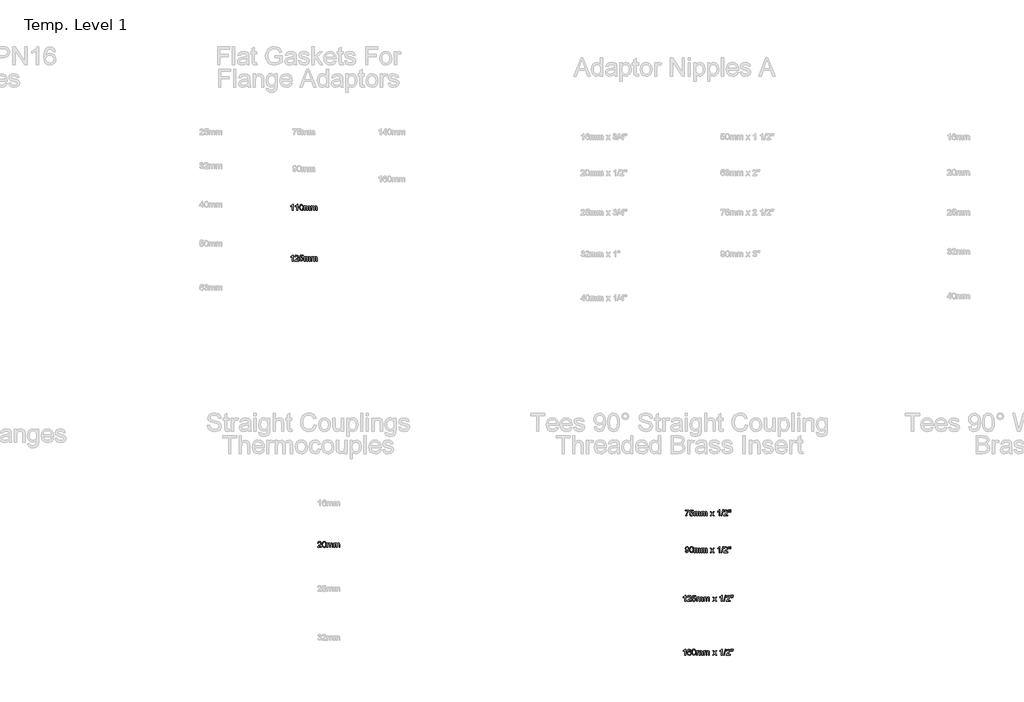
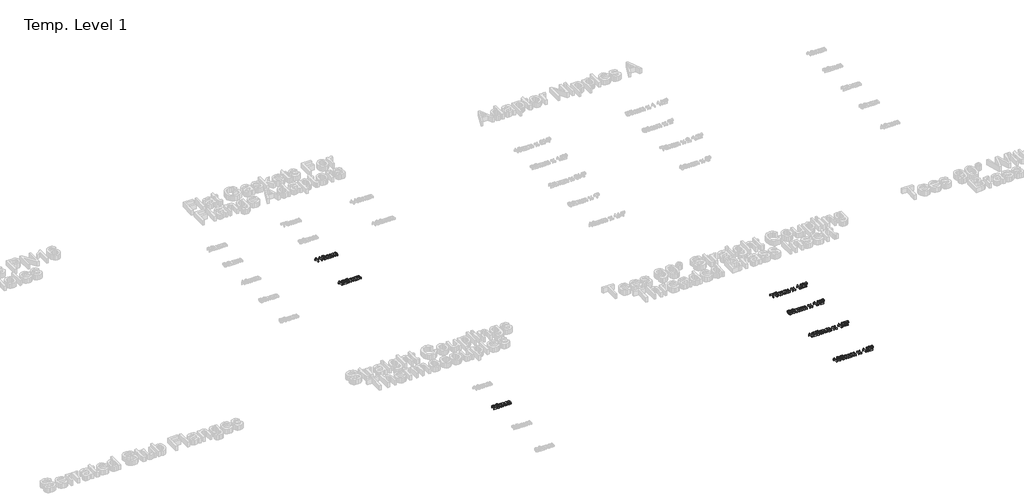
# One storey, part 4 of 62: 7 proxies.
"""IFC4 building model written with IfcOpenShell, lengths in millimetres."""

from ifc_helpers import new_model, si_unit, origin, origin_with_axes, place, context, project, spatial, polyline, outline, extrude, element, save

model = new_model("IFC4")

# Units and contexts
model_context = context("Model", 3, world=origin())
ifc_project = project(units=[si_unit("LENGTHUNIT", "METRE", prefix="MILLI")], contexts=[model_context])

# Site, building, storey
site = spatial("IfcSite", under=ifc_project)
building = spatial("IfcBuilding", under=site)
storey = spatial("IfcBuildingStorey", under=building, Name="Temp. Level 1", Elevation=0.0)

# Proxies
placement = place(None, origin())
element("IfcBuildingElementProxy", 1, Name="50mm Arial", ObjectType="50mm Arial", at=placement, inside=storey, context=model_context, shape_type="SweptSolid", body=[
    extrude(outline(polyline([(12294.5553631, -8170.198517), (12288.401517, -8170.198517), (12288.401517, -8131.8331324), (12282.5721901, -8135.9857766), (12276.0938247, -8139.0927478), (12276.0938247, -8133.2754401), (12285.1142574, -8127.5182286), (12290.589017, -8120.9677478), (12294.5553631, -8120.9677478), (12294.5553631, -8170.198517)])), origin_with_axes(), (0.0, 0.0, 1.0), 15.0),
    extrude(outline(polyline([(12332.2476708, -8170.198517), (12326.0938247, -8170.198517), (12326.0938247, -8131.8331324), (12320.2644977, -8135.9857766), (12313.7861324, -8139.0927478), (12313.7861324, -8133.2754401), (12322.8065651, -8127.5182286), (12328.2813247, -8120.9677478), (12332.2476708, -8120.9677478), (12332.2476708, -8170.198517)])), origin_with_axes(), (0.0, 0.0, 1.0), 15.0),
    extrude(outline(polyline([(12346.8630554, -8145.979767), (12348.6719497, -8131.8151036), (12354.0445458, -8123.6480362), (12363.0169016, -8120.9677478), (12370.2044016, -8122.5542862), (12375.1683439, -8127.1276036), (12378.0529593, -8134.4112574), (12379.1707477, -8145.979767), (12377.3798824, -8160.0843343), (12372.0253151, -8168.2694305), (12363.0169016, -8170.9677478), (12351.7669016, -8166.2802478), (12348.089017, -8157.9539257), (12346.8630554, -8145.979767)]), holes=[polyline([(12353.0169016, -8145.9677478), (12355.901517, -8161.2501997), (12363.0169016, -8164.8139016), (12370.1322862, -8161.2381805), (12373.0169016, -8145.9677478), (12370.2284401, -8130.8595747), (12362.9447862, -8127.1215939), (12355.9976708, -8130.4148632), (12353.0169016, -8145.9677478)])]), origin_with_axes(), (0.0, 0.0, 1.0), 15.0),
    extrude(outline(polyline([(12386.0938247, -8170.198517), (12386.0938247, -8134.0446709), (12392.2476708, -8134.0446709), (12392.2476708, -8139.9941901), (12396.4784401, -8135.120392), (12402.5000747, -8133.2754401), (12408.6659401, -8135.1564497), (12412.0553631, -8140.4268824), (12416.8570458, -8135.0633007), (12422.9207477, -8133.2754401), (12430.9676227, -8136.2501997), (12433.7861324, -8145.4148632), (12433.7861324, -8170.198517), (12427.6322862, -8170.198517), (12427.6322862, -8148.0590939), (12427.0613727, -8142.9208728), (12424.9940651, -8140.3908247), (12421.4784401, -8139.4292862), (12415.4267574, -8141.8932286), (12413.0169016, -8149.7898632), (12413.0169016, -8170.198517), (12406.8630554, -8170.198517), (12406.8630554, -8147.3739978), (12405.4387766, -8141.4124593), (12400.7693054, -8139.4292862), (12396.214017, -8140.7514016), (12393.1851708, -8144.6215939), (12392.2476708, -8151.9653439), (12392.2476708, -8170.198517), (12386.0938247, -8170.198517)])), origin_with_axes(), (0.0, 0.0, 1.0), 15.0),
    extrude(outline(polyline([(12443.0169016, -8170.198517), (12443.0169016, -8134.0446709), (12449.1707477, -8134.0446709), (12449.1707477, -8139.9941901), (12453.401517, -8135.120392), (12459.4231516, -8133.2754401), (12465.589017, -8135.1564497), (12468.9784401, -8140.4268824), (12473.7801227, -8135.0633007), (12479.8438247, -8133.2754401), (12487.8906997, -8136.2501997), (12490.7092093, -8145.4148632), (12490.7092093, -8170.198517), (12484.5553631, -8170.198517), (12484.5553631, -8148.0590939), (12483.9844497, -8142.9208728), (12481.917142, -8140.3908247), (12478.401517, -8139.4292862), (12472.3498343, -8141.8932286), (12469.9399785, -8149.7898632), (12469.9399785, -8170.198517), (12463.7861324, -8170.198517), (12463.7861324, -8147.3739978), (12462.3618535, -8141.4124593), (12457.6923824, -8139.4292862), (12453.1370939, -8140.7514016), (12450.1082477, -8144.6215939), (12449.1707477, -8151.9653439), (12449.1707477, -8170.198517), (12443.0169016, -8170.198517)])), origin_with_axes(), (0.0, 0.0, 1.0), 15.0),
])
element("IfcBuildingElementProxy", 2, Name="50mm Arial", ObjectType="50mm Arial", at=placement, inside=storey, context=model_context, shape_type="SweptSolid", body=[
    extrude(outline(polyline([(12294.5553631, -8585.198517), (12288.401517, -8585.198517), (12288.401517, -8546.8331324), (12282.5721901, -8550.9857766), (12276.0938247, -8554.0927478), (12276.0938247, -8548.2754401), (12285.1142574, -8542.5182286), (12290.589017, -8535.9677478), (12294.5553631, -8535.9677478), (12294.5553631, -8585.198517)])), origin_with_axes(), (0.0, 0.0, 1.0), 15.0),
    extrude(outline(polyline([(12340.7092093, -8579.0446709), (12340.7092093, -8585.198517), (12308.401517, -8585.198517), (12309.0625747, -8580.9557286), (12312.8005554, -8574.4232766), (12320.5048824, -8567.2898632), (12331.1298824, -8557.0374593), (12333.7861324, -8550.0663055), (12331.2801227, -8544.4232766), (12324.7356516, -8542.1215939), (12317.9147381, -8544.3691901), (12315.3245939, -8550.5831324), (12309.1707477, -8549.8139016), (12313.8882958, -8539.5134209), (12324.8678631, -8535.9677478), (12335.8834881, -8539.9100555), (12339.9399785, -8549.6937093), (12338.8462285, -8555.5290459), (12335.2104112, -8561.5626997), (12326.3943054, -8569.9941901), (12319.3149785, -8575.9136612), (12316.5385362, -8579.0446709), (12340.7092093, -8579.0446709)])), origin_with_axes(), (0.0, 0.0, 1.0), 15.0),
    extrude(outline(polyline([(12346.8630554, -8572.1215939), (12353.0169016, -8571.3523632), (12356.1178631, -8577.6925074), (12362.5481516, -8579.8139016), (12370.2644977, -8576.8631805), (12373.0169016, -8569.0326516), (12370.4387766, -8561.7249593), (12362.6443054, -8559.0446709), (12357.2416612, -8560.1143824), (12353.7861324, -8562.8908247), (12347.6322862, -8562.1215939), (12353.0169016, -8536.7369786), (12376.8630554, -8536.7369786), (12376.8630554, -8542.8908247), (12357.9928631, -8542.8908247), (12355.3606516, -8556.448517), (12364.3630554, -8552.8908247), (12374.885892, -8557.3018824), (12379.1707477, -8568.6480362), (12375.3125747, -8580.0663055), (12369.7717093, -8584.4923872), (12362.5241131, -8585.9677478), (12351.6647381, -8582.1756805), (12346.8630554, -8572.1215939)])), origin_with_axes(), (0.0, 0.0, 1.0), 15.0),
    extrude(outline(polyline([(12386.0938247, -8585.198517), (12386.0938247, -8549.0446709), (12392.2476708, -8549.0446709), (12392.2476708, -8554.9941901), (12396.4784401, -8550.120392), (12402.5000747, -8548.2754401), (12408.6659401, -8550.1564497), (12412.0553631, -8555.4268824), (12416.8570458, -8550.0633007), (12422.9207477, -8548.2754401), (12430.9676227, -8551.2501997), (12433.7861324, -8560.4148632), (12433.7861324, -8585.198517), (12427.6322862, -8585.198517), (12427.6322862, -8563.0590939), (12427.0613727, -8557.9208728), (12424.9940651, -8555.3908247), (12421.4784401, -8554.4292862), (12415.4267574, -8556.8932286), (12413.0169016, -8564.7898632), (12413.0169016, -8585.198517), (12406.8630554, -8585.198517), (12406.8630554, -8562.3739978), (12405.4387766, -8556.4124593), (12400.7693054, -8554.4292862), (12396.214017, -8555.7514016), (12393.1851708, -8559.6215939), (12392.2476708, -8566.9653439), (12392.2476708, -8585.198517), (12386.0938247, -8585.198517)])), origin_with_axes(), (0.0, 0.0, 1.0), 15.0),
    extrude(outline(polyline([(12443.0169016, -8585.198517), (12443.0169016, -8549.0446709), (12449.1707477, -8549.0446709), (12449.1707477, -8554.9941901), (12453.401517, -8550.120392), (12459.4231516, -8548.2754401), (12465.589017, -8550.1564497), (12468.9784401, -8555.4268824), (12473.7801227, -8550.0633007), (12479.8438247, -8548.2754401), (12487.8906997, -8551.2501997), (12490.7092093, -8560.4148632), (12490.7092093, -8585.198517), (12484.5553631, -8585.198517), (12484.5553631, -8563.0590939), (12483.9844497, -8557.9208728), (12481.917142, -8555.3908247), (12478.401517, -8554.4292862), (12472.3498343, -8556.8932286), (12469.9399785, -8564.7898632), (12469.9399785, -8585.198517), (12463.7861324, -8585.198517), (12463.7861324, -8562.3739978), (12462.3618535, -8556.4124593), (12457.6923824, -8554.4292862), (12453.1370939, -8555.7514016), (12450.1082477, -8559.6215939), (12449.1707477, -8566.9653439), (12449.1707477, -8585.198517), (12443.0169016, -8585.198517)])), origin_with_axes(), (0.0, 0.0, 1.0), 15.0),
])
element("IfcBuildingElementProxy", 3, Name="50mm Arial", ObjectType="50mm Arial", at=placement, inside=storey, context=model_context, shape_type="SweptSolid", body=[
    extrude(outline(polyline([(12526.8630554, -10924.0446709), (12526.8630554, -10930.198517), (12494.5553631, -10930.198517), (12495.2164208, -10925.9557286), (12498.9544016, -10919.4232766), (12506.6587285, -10912.2898632), (12517.2837285, -10902.0374593), (12519.9399785, -10895.0663055), (12517.4339689, -10889.4232766), (12510.8894977, -10887.1215939), (12504.0685843, -10889.3691901), (12501.4784401, -10895.5831324), (12495.3245939, -10894.8139016), (12500.042142, -10884.5134209), (12511.0217093, -10880.9677478), (12522.0373343, -10884.9100555), (12526.0938247, -10894.6937093), (12525.0000747, -10900.5290459), (12521.3642574, -10906.5626997), (12512.5481516, -10914.9941901), (12505.4688247, -10920.9136612), (12502.6923824, -10924.0446709), (12526.8630554, -10924.0446709)])), origin_with_axes(), (0.0, 0.0, 1.0), 15.0),
    extrude(outline(polyline([(12533.0169016, -10905.979767), (12534.8257958, -10891.8151036), (12540.198392, -10883.6480362), (12549.1707477, -10880.9677478), (12556.3582477, -10882.5542862), (12561.3221901, -10887.1276036), (12564.2068054, -10894.4112574), (12565.3245939, -10905.979767), (12563.5337285, -10920.0843343), (12558.1791612, -10928.2694305), (12549.1707477, -10930.9677478), (12537.9207477, -10926.2802478), (12534.2428631, -10917.9539257), (12533.0169016, -10905.979767)]), holes=[polyline([(12539.1707477, -10905.9677478), (12542.0553631, -10921.2501997), (12549.1707477, -10924.8139016), (12556.2861324, -10921.2381805), (12559.1707477, -10905.9677478), (12556.3822862, -10890.8595747), (12549.0986324, -10887.1215939), (12542.151517, -10890.4148632), (12539.1707477, -10905.9677478)])]), origin_with_axes(), (0.0, 0.0, 1.0), 15.0),
    extrude(outline(polyline([(12572.2476708, -10930.198517), (12572.2476708, -10894.0446709), (12578.401517, -10894.0446709), (12578.401517, -10899.9941901), (12582.6322862, -10895.120392), (12588.6539208, -10893.2754401), (12594.8197862, -10895.1564497), (12598.2092093, -10900.4268824), (12603.010892, -10895.0633007), (12609.0745939, -10893.2754401), (12617.1214689, -10896.2501997), (12619.9399785, -10905.4148632), (12619.9399785, -10930.198517), (12613.7861324, -10930.198517), (12613.7861324, -10908.0590939), (12613.2152189, -10902.9208728), (12611.1479112, -10900.3908247), (12607.6322862, -10899.4292862), (12601.5806035, -10901.8932286), (12599.1707477, -10909.7898632), (12599.1707477, -10930.198517), (12593.0169016, -10930.198517), (12593.0169016, -10907.3739978), (12591.5926227, -10901.4124593), (12586.9231516, -10899.4292862), (12582.3678631, -10900.7514016), (12579.339017, -10904.6215939), (12578.401517, -10911.9653439), (12578.401517, -10930.198517), (12572.2476708, -10930.198517)])), origin_with_axes(), (0.0, 0.0, 1.0), 15.0),
    extrude(outline(polyline([(12629.1707477, -10930.198517), (12629.1707477, -10894.0446709), (12635.3245939, -10894.0446709), (12635.3245939, -10899.9941901), (12639.5553631, -10895.120392), (12645.5769977, -10893.2754401), (12651.7428631, -10895.1564497), (12655.1322862, -10900.4268824), (12659.9339689, -10895.0633007), (12665.9976708, -10893.2754401), (12674.0445458, -10896.2501997), (12676.8630554, -10905.4148632), (12676.8630554, -10930.198517), (12670.7092093, -10930.198517), (12670.7092093, -10908.0590939), (12670.1382958, -10902.9208728), (12668.0709881, -10900.3908247), (12664.5553631, -10899.4292862), (12658.5036804, -10901.8932286), (12656.0938247, -10909.7898632), (12656.0938247, -10930.198517), (12649.9399785, -10930.198517), (12649.9399785, -10907.3739978), (12648.5156997, -10901.4124593), (12643.8462285, -10899.4292862), (12639.2909401, -10900.7514016), (12636.2620939, -10904.6215939), (12635.3245939, -10911.9653439), (12635.3245939, -10930.198517), (12629.1707477, -10930.198517)])), origin_with_axes(), (0.0, 0.0, 1.0), 15.0),
])
element("IfcBuildingElementProxy", 4, Name="50mm Arial", ObjectType="50mm Arial", at=placement, inside=storey, context=model_context, shape_type="SweptSolid", body=[
    extrude(outline(polyline([(15503.4692601, -10629.6750175), (15503.4692601, -10623.5211714), (15535.7769524, -10623.5211714), (15535.7769524, -10628.4971329), (15526.612289, -10641.7363156), (15519.5990678, -10658.605306), (15517.315414, -10671.9827098), (15511.1615678, -10671.9827098), (15513.6074813, -10658.1004983), (15520.3202217, -10642.4093925), (15529.6231063, -10629.6750175), (15503.4692601, -10629.6750175)])), origin_with_axes(), (0.0, 0.0, 1.0), 15.0),
    extrude(outline(polyline([(15541.1615678, -10658.9057868), (15547.315414, -10658.136556), (15550.4163755, -10664.4767002), (15556.846664, -10666.5980944), (15564.5630101, -10663.6473733), (15567.315414, -10655.8168444), (15564.737289, -10648.5091521), (15556.9428178, -10645.8288637), (15551.5401736, -10646.8985752), (15548.0846447, -10649.6750175), (15541.9307986, -10648.9057868), (15547.315414, -10623.5211714), (15571.1615678, -10623.5211714), (15571.1615678, -10629.6750175), (15552.2913755, -10629.6750175), (15549.659164, -10643.2327098), (15558.6615678, -10639.6750175), (15569.1844043, -10644.0860752), (15573.4692601, -10655.4322291), (15569.611087, -10666.8504983), (15564.0702217, -10671.27658), (15556.8226255, -10672.7519406), (15545.9632505, -10668.9598733), (15541.1615678, -10658.9057868)])), origin_with_axes(), (0.0, 0.0, 1.0), 15.0),
    extrude(outline(polyline([(15580.392337, -10671.9827098), (15580.392337, -10635.8288637), (15586.5461832, -10635.8288637), (15586.5461832, -10641.7783829), (15590.7769524, -10636.9045848), (15596.798587, -10635.0596329), (15602.9644524, -10636.9406425), (15606.3538755, -10642.2110752), (15611.1555582, -10636.8474935), (15617.2192601, -10635.0596329), (15625.2661351, -10638.0343925), (15628.0846447, -10647.199056), (15628.0846447, -10671.9827098), (15621.9307986, -10671.9827098), (15621.9307986, -10649.8432868), (15621.3598851, -10644.7050656), (15619.2925774, -10642.1750175), (15615.7769524, -10641.2134791), (15609.7252697, -10643.6774214), (15607.315414, -10651.574056), (15607.315414, -10671.9827098), (15601.1615678, -10671.9827098), (15601.1615678, -10649.1581906), (15599.737289, -10643.1966521), (15595.0678178, -10641.2134791), (15590.5125293, -10642.5355944), (15587.4836832, -10646.4057868), (15586.5461832, -10653.7495368), (15586.5461832, -10671.9827098), (15580.392337, -10671.9827098)])), origin_with_axes(), (0.0, 0.0, 1.0), 15.0),
    extrude(outline(polyline([(15637.315414, -10671.9827098), (15637.315414, -10635.8288637), (15643.4692601, -10635.8288637), (15643.4692601, -10641.7783829), (15647.7000293, -10636.9045848), (15653.721664, -10635.0596329), (15659.8875293, -10636.9406425), (15663.2769524, -10642.2110752), (15668.0786351, -10636.8474935), (15674.142337, -10635.0596329), (15682.189212, -10638.0343925), (15685.0077217, -10647.199056), (15685.0077217, -10671.9827098), (15678.8538755, -10671.9827098), (15678.8538755, -10649.8432868), (15678.282962, -10644.7050656), (15676.2156543, -10642.1750175), (15672.7000293, -10641.2134791), (15666.6483467, -10643.6774214), (15664.2384909, -10651.574056), (15664.2384909, -10671.9827098), (15658.0846447, -10671.9827098), (15658.0846447, -10649.1581906), (15656.6603659, -10643.1966521), (15651.9908947, -10641.2134791), (15647.4356063, -10642.5355944), (15644.4067601, -10646.4057868), (15643.4692601, -10653.7495368), (15643.4692601, -10671.9827098), (15637.315414, -10671.9827098)])), origin_with_axes(), (0.0, 0.0, 1.0), 15.0),
    extrude(outline(polyline([(15709.6231063, -10671.9827098), (15722.7721447, -10653.8096329), (15710.392337, -10635.8288637), (15717.7961832, -10635.8288637), (15723.7697409, -10644.4827098), (15726.5582024, -10648.5692483), (15728.9740678, -10645.2279021), (15735.7769524, -10635.8288637), (15743.1807986, -10635.8288637), (15730.1759909, -10653.8096329), (15742.7000293, -10671.9827098), (15735.2961832, -10671.9827098), (15727.7601255, -10661.0572291), (15726.377914, -10659.0620368), (15717.0269524, -10671.9827098), (15709.6231063, -10671.9827098)])), origin_with_axes(), (0.0, 0.0, 1.0), 15.0),
    extrude(outline(polyline([(15788.8538755, -10671.9827098), (15782.7000293, -10671.9827098), (15782.7000293, -10633.6173252), (15776.8707024, -10637.7699694), (15770.392337, -10640.8769406), (15770.392337, -10635.0596329), (15779.4127697, -10629.3024214), (15784.8875293, -10622.7519406), (15788.8538755, -10622.7519406), (15788.8538755, -10671.9827098)])), origin_with_axes(), (0.0, 0.0, 1.0), 15.0),
    extrude(outline(polyline([(15800.392337, -10671.9827098), (15814.2384909, -10622.7519406), (15819.7913755, -10622.7519406), (15805.9452217, -10671.9827098), (15800.392337, -10671.9827098)])), origin_with_axes(), (0.0, 0.0, 1.0), 15.0),
    extrude(outline(polyline([(15854.2384909, -10665.8288637), (15854.2384909, -10671.9827098), (15821.9307986, -10671.9827098), (15822.5918563, -10667.7399214), (15826.329837, -10661.2074694), (15834.034164, -10654.074056), (15844.659164, -10643.8216521), (15847.315414, -10636.8504983), (15844.8094043, -10631.2074694), (15838.2649332, -10628.9057868), (15831.4440197, -10631.1533829), (15828.8538755, -10637.3673252), (15822.7000293, -10636.5980944), (15827.4175774, -10626.2976137), (15838.3971447, -10622.7519406), (15849.4127697, -10626.6942483), (15853.4692601, -10636.4779021), (15852.3755101, -10642.3132387), (15848.7396928, -10648.3468925), (15839.923587, -10656.7783829), (15832.8442601, -10662.6978541), (15830.0678178, -10665.8288637), (15854.2384909, -10665.8288637)])), origin_with_axes(), (0.0, 0.0, 1.0), 15.0),
    extrude(outline(polyline([(15861.8947409, -10640.4442483), (15860.392337, -10630.9370368), (15860.392337, -10622.7519406), (15866.5461832, -10622.7519406), (15866.5461832, -10630.9370368), (15865.2000293, -10640.4442483), (15861.8947409, -10640.4442483)])), origin_with_axes(), (0.0, 0.0, 1.0), 15.0),
    extrude(outline(polyline([(15874.1663755, -10640.4442483), (15872.7000293, -10630.9370368), (15872.7000293, -10622.7519406), (15878.8538755, -10622.7519406), (15878.8538755, -10630.9370368), (15877.4115678, -10640.4442483), (15874.1663755, -10640.4442483)])), origin_with_axes(), (0.0, 0.0, 1.0), 15.0),
])
element("IfcBuildingElementProxy", 5, Name="50mm Arial", ObjectType="50mm Arial", at=placement, inside=storey, context=model_context, shape_type="SweptSolid", body=[
    extrude(outline(polyline([(15504.2384909, -10959.6750175), (15510.392337, -10958.9057868), (15513.1567601, -10964.777181), (15518.3971447, -10966.5980944), (15523.3791159, -10965.4262194), (15526.7565197, -10962.2952098), (15528.7697409, -10956.9466521), (15529.659164, -10949.8072291), (15524.7012313, -10953.2687675), (15517.9524332, -10955.0596329), (15507.6699813, -10950.6846329), (15503.4692601, -10939.1581906), (15507.8743082, -10927.2591521), (15518.9139717, -10922.7519406), (15527.6820005, -10925.324056), (15533.7156543, -10932.6557868), (15535.7769524, -10946.4298252), (15533.721664, -10961.3757387), (15527.6098851, -10969.8432868), (15518.1086832, -10972.7519406), (15508.6495486, -10969.3204502), (15504.2384909, -10959.6750175)]), holes=[polyline([(15529.6231063, -10939.0139598), (15526.9668563, -10931.6341521), (15519.9115678, -10928.9057868), (15512.5077217, -10931.8444887), (15509.6231063, -10939.4586714), (15512.3514717, -10946.2795848), (15519.7432986, -10948.9057868), (15526.8406543, -10946.2795848), (15529.6231063, -10939.0139598)])]), origin_with_axes(), (0.0, 0.0, 1.0), 15.0),
    extrude(outline(polyline([(15541.1615678, -10947.7639598), (15542.970462, -10933.5992964), (15548.3430582, -10925.4322291), (15557.315414, -10922.7519406), (15564.502914, -10924.3384791), (15569.4668563, -10928.9117964), (15572.3514717, -10936.1954502), (15573.4692601, -10947.7639598), (15571.6783947, -10961.8685271), (15566.3238274, -10970.0536233), (15557.315414, -10972.7519406), (15546.065414, -10968.0644406), (15542.3875293, -10959.7381185), (15541.1615678, -10947.7639598)]), holes=[polyline([(15547.315414, -10947.7519406), (15550.2000293, -10963.0343925), (15557.315414, -10966.5980944), (15564.4307986, -10963.0223733), (15567.315414, -10947.7519406), (15564.5269524, -10932.6437675), (15557.2432986, -10928.9057868), (15550.2961832, -10932.199056), (15547.315414, -10947.7519406)])]), origin_with_axes(), (0.0, 0.0, 1.0), 15.0),
    extrude(outline(polyline([(15580.392337, -10971.9827098), (15580.392337, -10935.8288637), (15586.5461832, -10935.8288637), (15586.5461832, -10941.7783829), (15590.7769524, -10936.9045848), (15596.798587, -10935.0596329), (15602.9644524, -10936.9406425), (15606.3538755, -10942.2110752), (15611.1555582, -10936.8474935), (15617.2192601, -10935.0596329), (15625.2661351, -10938.0343925), (15628.0846447, -10947.199056), (15628.0846447, -10971.9827098), (15621.9307986, -10971.9827098), (15621.9307986, -10949.8432868), (15621.3598851, -10944.7050656), (15619.2925774, -10942.1750175), (15615.7769524, -10941.2134791), (15609.7252697, -10943.6774214), (15607.315414, -10951.574056), (15607.315414, -10971.9827098), (15601.1615678, -10971.9827098), (15601.1615678, -10949.1581906), (15599.737289, -10943.1966521), (15595.0678178, -10941.2134791), (15590.5125293, -10942.5355944), (15587.4836832, -10946.4057868), (15586.5461832, -10953.7495368), (15586.5461832, -10971.9827098), (15580.392337, -10971.9827098)])), origin_with_axes(), (0.0, 0.0, 1.0), 15.0),
    extrude(outline(polyline([(15637.315414, -10971.9827098), (15637.315414, -10935.8288637), (15643.4692601, -10935.8288637), (15643.4692601, -10941.7783829), (15647.7000293, -10936.9045848), (15653.721664, -10935.0596329), (15659.8875293, -10936.9406425), (15663.2769524, -10942.2110752), (15668.0786351, -10936.8474935), (15674.142337, -10935.0596329), (15682.189212, -10938.0343925), (15685.0077217, -10947.199056), (15685.0077217, -10971.9827098), (15678.8538755, -10971.9827098), (15678.8538755, -10949.8432868), (15678.282962, -10944.7050656), (15676.2156543, -10942.1750175), (15672.7000293, -10941.2134791), (15666.6483467, -10943.6774214), (15664.2384909, -10951.574056), (15664.2384909, -10971.9827098), (15658.0846447, -10971.9827098), (15658.0846447, -10949.1581906), (15656.6603659, -10943.1966521), (15651.9908947, -10941.2134791), (15647.4356063, -10942.5355944), (15644.4067601, -10946.4057868), (15643.4692601, -10953.7495368), (15643.4692601, -10971.9827098), (15637.315414, -10971.9827098)])), origin_with_axes(), (0.0, 0.0, 1.0), 15.0),
    extrude(outline(polyline([(15709.6231063, -10971.9827098), (15722.7721447, -10953.8096329), (15710.392337, -10935.8288637), (15717.7961832, -10935.8288637), (15723.7697409, -10944.4827098), (15726.5582024, -10948.5692483), (15728.9740678, -10945.2279021), (15735.7769524, -10935.8288637), (15743.1807986, -10935.8288637), (15730.1759909, -10953.8096329), (15742.7000293, -10971.9827098), (15735.2961832, -10971.9827098), (15727.7601255, -10961.0572291), (15726.377914, -10959.0620368), (15717.0269524, -10971.9827098), (15709.6231063, -10971.9827098)])), origin_with_axes(), (0.0, 0.0, 1.0), 15.0),
    extrude(outline(polyline([(15788.8538755, -10971.9827098), (15782.7000293, -10971.9827098), (15782.7000293, -10933.6173252), (15776.8707024, -10937.7699694), (15770.392337, -10940.8769406), (15770.392337, -10935.0596329), (15779.4127697, -10929.3024214), (15784.8875293, -10922.7519406), (15788.8538755, -10922.7519406), (15788.8538755, -10971.9827098)])), origin_with_axes(), (0.0, 0.0, 1.0), 15.0),
    extrude(outline(polyline([(15800.392337, -10971.9827098), (15814.2384909, -10922.7519406), (15819.7913755, -10922.7519406), (15805.9452217, -10971.9827098), (15800.392337, -10971.9827098)])), origin_with_axes(), (0.0, 0.0, 1.0), 15.0),
    extrude(outline(polyline([(15854.2384909, -10965.8288637), (15854.2384909, -10971.9827098), (15821.9307986, -10971.9827098), (15822.5918563, -10967.7399214), (15826.329837, -10961.2074694), (15834.034164, -10954.074056), (15844.659164, -10943.8216521), (15847.315414, -10936.8504983), (15844.8094043, -10931.2074694), (15838.2649332, -10928.9057868), (15831.4440197, -10931.1533829), (15828.8538755, -10937.3673252), (15822.7000293, -10936.5980944), (15827.4175774, -10926.2976137), (15838.3971447, -10922.7519406), (15849.4127697, -10926.6942483), (15853.4692601, -10936.4779021), (15852.3755101, -10942.3132387), (15848.7396928, -10948.3468925), (15839.923587, -10956.7783829), (15832.8442601, -10962.6978541), (15830.0678178, -10965.8288637), (15854.2384909, -10965.8288637)])), origin_with_axes(), (0.0, 0.0, 1.0), 15.0),
    extrude(outline(polyline([(15874.1663755, -10940.4442483), (15872.7000293, -10930.9370368), (15872.7000293, -10922.7519406), (15878.8538755, -10922.7519406), (15878.8538755, -10930.9370368), (15877.4115678, -10940.4442483), (15874.1663755, -10940.4442483)])), origin_with_axes(), (0.0, 0.0, 1.0), 15.0),
    extrude(outline(polyline([(15861.8947409, -10940.4442483), (15860.392337, -10930.9370368), (15860.392337, -10922.7519406), (15866.5461832, -10922.7519406), (15866.5461832, -10930.9370368), (15865.2000293, -10940.4442483), (15861.8947409, -10940.4442483)])), origin_with_axes(), (0.0, 0.0, 1.0), 15.0),
])
element("IfcBuildingElementProxy", 6, Name="50mm Arial", ObjectType="50mm Arial", at=placement, inside=storey, context=model_context, shape_type="SweptSolid", body=[
    extrude(outline(polyline([(15507.7000293, -11371.9827098), (15501.5461832, -11371.9827098), (15501.5461832, -11333.6173252), (15495.7168563, -11337.7699694), (15489.2384909, -11340.8769406), (15489.2384909, -11335.0596329), (15498.2589236, -11329.3024214), (15503.7336832, -11322.7519406), (15507.7000293, -11322.7519406), (15507.7000293, -11371.9827098)])), origin_with_axes(), (0.0, 0.0, 1.0), 15.0),
    extrude(outline(polyline([(15553.8538755, -11365.8288637), (15553.8538755, -11371.9827098), (15521.5461832, -11371.9827098), (15522.2072409, -11367.7399214), (15525.9452217, -11361.2074694), (15533.6495486, -11354.074056), (15544.2745486, -11343.8216521), (15546.9307986, -11336.8504983), (15544.424789, -11331.2074694), (15537.8803178, -11328.9057868), (15531.0594043, -11331.1533829), (15528.4692601, -11337.3673252), (15522.315414, -11336.5980944), (15527.032962, -11326.2976137), (15538.0125293, -11322.7519406), (15549.0281543, -11326.6942483), (15553.0846447, -11336.4779021), (15551.9908947, -11342.3132387), (15548.3550774, -11348.3468925), (15539.5389717, -11356.7783829), (15532.4596447, -11362.6978541), (15529.6832024, -11365.8288637), (15553.8538755, -11365.8288637)])), origin_with_axes(), (0.0, 0.0, 1.0), 15.0),
    extrude(outline(polyline([(15560.0077217, -11358.9057868), (15566.1615678, -11358.136556), (15569.2625293, -11364.4767002), (15575.6928178, -11366.5980944), (15583.409164, -11363.6473733), (15586.1615678, -11355.8168444), (15583.5834428, -11348.5091521), (15575.7889717, -11345.8288637), (15570.3863274, -11346.8985752), (15566.9307986, -11349.6750175), (15560.7769524, -11348.9057868), (15566.1615678, -11323.5211714), (15590.0077217, -11323.5211714), (15590.0077217, -11329.6750175), (15571.1375293, -11329.6750175), (15568.5053178, -11343.2327098), (15577.5077217, -11339.6750175), (15588.0305582, -11344.0860752), (15592.315414, -11355.4322291), (15588.4572409, -11366.8504983), (15582.9163755, -11371.27658), (15575.6687793, -11372.7519406), (15564.8094043, -11368.9598733), (15560.0077217, -11358.9057868)])), origin_with_axes(), (0.0, 0.0, 1.0), 15.0),
    extrude(outline(polyline([(15599.2384909, -11371.9827098), (15599.2384909, -11335.8288637), (15605.392337, -11335.8288637), (15605.392337, -11341.7783829), (15609.6231063, -11336.9045848), (15615.6447409, -11335.0596329), (15621.8106063, -11336.9406425), (15625.2000293, -11342.2110752), (15630.001712, -11336.8474935), (15636.065414, -11335.0596329), (15644.112289, -11338.0343925), (15646.9307986, -11347.199056), (15646.9307986, -11371.9827098), (15640.7769524, -11371.9827098), (15640.7769524, -11349.8432868), (15640.206039, -11344.7050656), (15638.1387313, -11342.1750175), (15634.6231063, -11341.2134791), (15628.5714236, -11343.6774214), (15626.1615678, -11351.574056), (15626.1615678, -11371.9827098), (15620.0077217, -11371.9827098), (15620.0077217, -11349.1581906), (15618.5834428, -11343.1966521), (15613.9139717, -11341.2134791), (15609.3586832, -11342.5355944), (15606.329837, -11346.4057868), (15605.392337, -11353.7495368), (15605.392337, -11371.9827098), (15599.2384909, -11371.9827098)])), origin_with_axes(), (0.0, 0.0, 1.0), 15.0),
    extrude(outline(polyline([(15656.1615678, -11371.9827098), (15656.1615678, -11335.8288637), (15662.315414, -11335.8288637), (15662.315414, -11341.7783829), (15666.5461832, -11336.9045848), (15672.5678178, -11335.0596329), (15678.7336832, -11336.9406425), (15682.1231063, -11342.2110752), (15686.924789, -11336.8474935), (15692.9884909, -11335.0596329), (15701.0353659, -11338.0343925), (15703.8538755, -11347.199056), (15703.8538755, -11371.9827098), (15697.7000293, -11371.9827098), (15697.7000293, -11349.8432868), (15697.1291159, -11344.7050656), (15695.0618082, -11342.1750175), (15691.5461832, -11341.2134791), (15685.4945005, -11343.6774214), (15683.0846447, -11351.574056), (15683.0846447, -11371.9827098), (15676.9307986, -11371.9827098), (15676.9307986, -11349.1581906), (15675.5065197, -11343.1966521), (15670.8370486, -11341.2134791), (15666.2817601, -11342.5355944), (15663.252914, -11346.4057868), (15662.315414, -11353.7495368), (15662.315414, -11371.9827098), (15656.1615678, -11371.9827098)])), origin_with_axes(), (0.0, 0.0, 1.0), 15.0),
    extrude(outline(polyline([(15728.4692601, -11371.9827098), (15741.6182986, -11353.8096329), (15729.2384909, -11335.8288637), (15736.642337, -11335.8288637), (15742.6158947, -11344.4827098), (15745.4043563, -11348.5692483), (15747.8202217, -11345.2279021), (15754.6231063, -11335.8288637), (15762.0269524, -11335.8288637), (15749.0221447, -11353.8096329), (15761.5461832, -11371.9827098), (15754.142337, -11371.9827098), (15746.6062793, -11361.0572291), (15745.2240678, -11359.0620368), (15735.8731063, -11371.9827098), (15728.4692601, -11371.9827098)])), origin_with_axes(), (0.0, 0.0, 1.0), 15.0),
    extrude(outline(polyline([(15807.7000293, -11371.9827098), (15801.5461832, -11371.9827098), (15801.5461832, -11333.6173252), (15795.7168563, -11337.7699694), (15789.2384909, -11340.8769406), (15789.2384909, -11335.0596329), (15798.2589236, -11329.3024214), (15803.7336832, -11322.7519406), (15807.7000293, -11322.7519406), (15807.7000293, -11371.9827098)])), origin_with_axes(), (0.0, 0.0, 1.0), 15.0),
    extrude(outline(polyline([(15819.2384909, -11371.9827098), (15833.0846447, -11322.7519406), (15838.6375293, -11322.7519406), (15824.7913755, -11371.9827098), (15819.2384909, -11371.9827098)])), origin_with_axes(), (0.0, 0.0, 1.0), 15.0),
    extrude(outline(polyline([(15873.0846447, -11365.8288637), (15873.0846447, -11371.9827098), (15840.7769524, -11371.9827098), (15841.4380101, -11367.7399214), (15845.1759909, -11361.2074694), (15852.8803178, -11354.074056), (15863.5053178, -11343.8216521), (15866.1615678, -11336.8504983), (15863.6555582, -11331.2074694), (15857.111087, -11328.9057868), (15850.2901736, -11331.1533829), (15847.7000293, -11337.3673252), (15841.5461832, -11336.5980944), (15846.2637313, -11326.2976137), (15857.2432986, -11322.7519406), (15868.2589236, -11326.6942483), (15872.315414, -11336.4779021), (15871.221664, -11342.3132387), (15867.5858467, -11348.3468925), (15858.7697409, -11356.7783829), (15851.690414, -11362.6978541), (15848.9139717, -11365.8288637), (15873.0846447, -11365.8288637)])), origin_with_axes(), (0.0, 0.0, 1.0), 15.0),
    extrude(outline(polyline([(15893.0125293, -11340.4442483), (15891.5461832, -11330.9370368), (15891.5461832, -11322.7519406), (15897.7000293, -11322.7519406), (15897.7000293, -11330.9370368), (15896.2577217, -11340.4442483), (15893.0125293, -11340.4442483)])), origin_with_axes(), (0.0, 0.0, 1.0), 15.0),
    extrude(outline(polyline([(15880.7408947, -11340.4442483), (15879.2384909, -11330.9370368), (15879.2384909, -11322.7519406), (15885.392337, -11322.7519406), (15885.392337, -11330.9370368), (15884.0461832, -11340.4442483), (15880.7408947, -11340.4442483)])), origin_with_axes(), (0.0, 0.0, 1.0), 15.0),
])
element("IfcBuildingElementProxy", 7, Name="50mm Arial", ObjectType="50mm Arial", at=placement, inside=storey, context=model_context, shape_type="SweptSolid", body=[
    extrude(outline(polyline([(15507.7000293, -11811.9827098), (15501.5461832, -11811.9827098), (15501.5461832, -11773.6173252), (15495.7168563, -11777.7699694), (15489.2384909, -11780.8769406), (15489.2384909, -11775.0596329), (15498.2589236, -11769.3024214), (15503.7336832, -11762.7519406), (15507.7000293, -11762.7519406), (15507.7000293, -11811.9827098)])), origin_with_axes(), (0.0, 0.0, 1.0), 15.0),
    extrude(outline(polyline([(15553.8538755, -11775.8288637), (15547.7000293, -11776.5980944), (15545.3682986, -11771.4658829), (15539.2024332, -11768.9057868), (15533.6495486, -11770.3961714), (15529.4488274, -11775.9911233), (15527.7000293, -11786.9586714), (15533.126712, -11782.0488156), (15539.8514717, -11780.4442483), (15550.3082024, -11784.8312675), (15554.6231063, -11796.1654021), (15552.5918563, -11804.6569887), (15547.002914, -11810.6666041), (15538.9380101, -11812.7519406), (15526.3959428, -11807.2230944), (15522.7586231, -11799.9033829), (15521.5461832, -11789.0019406), (15522.892337, -11776.74533), (15526.9307986, -11768.3649214), (15532.4446207, -11764.1551858), (15539.5870486, -11762.7519406), (15549.3106063, -11766.2254983), (15553.8538755, -11775.8288637)]), holes=[polyline([(15527.7000293, -11796.0692483), (15529.1243082, -11801.3997771), (15532.9103659, -11805.2699694), (15538.4572409, -11806.5980944), (15545.7108467, -11803.8456906), (15548.4692601, -11796.3697291), (15545.7469043, -11789.2122771), (15538.204837, -11786.5980944), (15530.7589236, -11789.2122771), (15527.7000293, -11796.0692483)])]), origin_with_axes(), (0.0, 0.0, 1.0), 15.0),
    extrude(outline(polyline([(15560.0077217, -11787.7639598), (15561.8166159, -11773.5992964), (15567.189212, -11765.4322291), (15576.1615678, -11762.7519406), (15583.3490678, -11764.3384791), (15588.3130101, -11768.9117964), (15591.1976255, -11776.1954502), (15592.315414, -11787.7639598), (15590.5245486, -11801.8685271), (15585.1699813, -11810.0536233), (15576.1615678, -11812.7519406), (15564.9115678, -11808.0644406), (15561.2336832, -11799.7381185), (15560.0077217, -11787.7639598)]), holes=[polyline([(15566.1615678, -11787.7519406), (15569.0461832, -11803.0343925), (15576.1615678, -11806.5980944), (15583.2769524, -11803.0223733), (15586.1615678, -11787.7519406), (15583.3731063, -11772.6437675), (15576.0894524, -11768.9057868), (15569.142337, -11772.199056), (15566.1615678, -11787.7519406)])]), origin_with_axes(), (0.0, 0.0, 1.0), 15.0),
    extrude(outline(polyline([(15599.2384909, -11811.9827098), (15599.2384909, -11775.8288637), (15605.392337, -11775.8288637), (15605.392337, -11781.7783829), (15609.6231063, -11776.9045848), (15615.6447409, -11775.0596329), (15621.8106063, -11776.9406425), (15625.2000293, -11782.2110752), (15630.001712, -11776.8474935), (15636.065414, -11775.0596329), (15644.112289, -11778.0343925), (15646.9307986, -11787.199056), (15646.9307986, -11811.9827098), (15640.7769524, -11811.9827098), (15640.7769524, -11789.8432868), (15640.206039, -11784.7050656), (15638.1387313, -11782.1750175), (15634.6231063, -11781.2134791), (15628.5714236, -11783.6774214), (15626.1615678, -11791.574056), (15626.1615678, -11811.9827098), (15620.0077217, -11811.9827098), (15620.0077217, -11789.1581906), (15618.5834428, -11783.1966521), (15613.9139717, -11781.2134791), (15609.3586832, -11782.5355944), (15606.329837, -11786.4057868), (15605.392337, -11793.7495368), (15605.392337, -11811.9827098), (15599.2384909, -11811.9827098)])), origin_with_axes(), (0.0, 0.0, 1.0), 15.0),
    extrude(outline(polyline([(15656.1615678, -11811.9827098), (15656.1615678, -11775.8288637), (15662.315414, -11775.8288637), (15662.315414, -11781.7783829), (15666.5461832, -11776.9045848), (15672.5678178, -11775.0596329), (15678.7336832, -11776.9406425), (15682.1231063, -11782.2110752), (15686.924789, -11776.8474935), (15692.9884909, -11775.0596329), (15701.0353659, -11778.0343925), (15703.8538755, -11787.199056), (15703.8538755, -11811.9827098), (15697.7000293, -11811.9827098), (15697.7000293, -11789.8432868), (15697.1291159, -11784.7050656), (15695.0618082, -11782.1750175), (15691.5461832, -11781.2134791), (15685.4945005, -11783.6774214), (15683.0846447, -11791.574056), (15683.0846447, -11811.9827098), (15676.9307986, -11811.9827098), (15676.9307986, -11789.1581906), (15675.5065197, -11783.1966521), (15670.8370486, -11781.2134791), (15666.2817601, -11782.5355944), (15663.252914, -11786.4057868), (15662.315414, -11793.7495368), (15662.315414, -11811.9827098), (15656.1615678, -11811.9827098)])), origin_with_axes(), (0.0, 0.0, 1.0), 15.0),
    extrude(outline(polyline([(15728.4692601, -11811.9827098), (15741.6182986, -11793.8096329), (15729.2384909, -11775.8288637), (15736.642337, -11775.8288637), (15742.6158947, -11784.4827098), (15745.4043563, -11788.5692483), (15747.8202217, -11785.2279021), (15754.6231063, -11775.8288637), (15762.0269524, -11775.8288637), (15749.0221447, -11793.8096329), (15761.5461832, -11811.9827098), (15754.142337, -11811.9827098), (15746.6062793, -11801.0572291), (15745.2240678, -11799.0620368), (15735.8731063, -11811.9827098), (15728.4692601, -11811.9827098)])), origin_with_axes(), (0.0, 0.0, 1.0), 15.0),
    extrude(outline(polyline([(15807.7000293, -11811.9827098), (15801.5461832, -11811.9827098), (15801.5461832, -11773.6173252), (15795.7168563, -11777.7699694), (15789.2384909, -11780.8769406), (15789.2384909, -11775.0596329), (15798.2589236, -11769.3024214), (15803.7336832, -11762.7519406), (15807.7000293, -11762.7519406), (15807.7000293, -11811.9827098)])), origin_with_axes(), (0.0, 0.0, 1.0), 15.0),
    extrude(outline(polyline([(15819.2384909, -11811.9827098), (15833.0846447, -11762.7519406), (15838.6375293, -11762.7519406), (15824.7913755, -11811.9827098), (15819.2384909, -11811.9827098)])), origin_with_axes(), (0.0, 0.0, 1.0), 15.0),
    extrude(outline(polyline([(15873.0846447, -11805.8288637), (15873.0846447, -11811.9827098), (15840.7769524, -11811.9827098), (15841.4380101, -11807.7399214), (15845.1759909, -11801.2074694), (15852.8803178, -11794.074056), (15863.5053178, -11783.8216521), (15866.1615678, -11776.8504983), (15863.6555582, -11771.2074694), (15857.111087, -11768.9057868), (15850.2901736, -11771.1533829), (15847.7000293, -11777.3673252), (15841.5461832, -11776.5980944), (15846.2637313, -11766.2976137), (15857.2432986, -11762.7519406), (15868.2589236, -11766.6942483), (15872.315414, -11776.4779021), (15871.221664, -11782.3132387), (15867.5858467, -11788.3468925), (15858.7697409, -11796.7783829), (15851.690414, -11802.6978541), (15848.9139717, -11805.8288637), (15873.0846447, -11805.8288637)])), origin_with_axes(), (0.0, 0.0, 1.0), 15.0),
    extrude(outline(polyline([(15893.0125293, -11780.4442483), (15891.5461832, -11770.9370368), (15891.5461832, -11762.7519406), (15897.7000293, -11762.7519406), (15897.7000293, -11770.9370368), (15896.2577217, -11780.4442483), (15893.0125293, -11780.4442483)])), origin_with_axes(), (0.0, 0.0, 1.0), 15.0),
    extrude(outline(polyline([(15880.7408947, -11780.4442483), (15879.2384909, -11770.9370368), (15879.2384909, -11762.7519406), (15885.392337, -11762.7519406), (15885.392337, -11770.9370368), (15884.0461832, -11780.4442483), (15880.7408947, -11780.4442483)])), origin_with_axes(), (0.0, 0.0, 1.0), 15.0),
])

save(model, "model.ifc")
